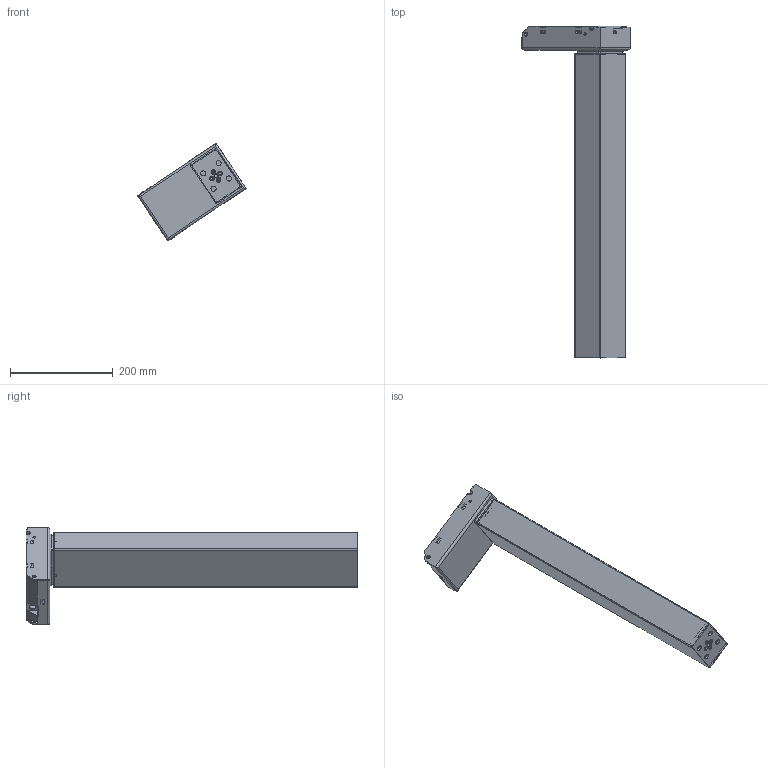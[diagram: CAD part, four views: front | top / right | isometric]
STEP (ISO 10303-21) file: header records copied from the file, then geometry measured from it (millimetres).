
FILE_DESCRIPTION (( 'STEP AP203' ), '1' );
FILE_NAME ('TL30S.STEP', '2018-07-12T05:42:47', ( '' ), ( '' ), 'SwSTEP 2.0', 'SolidWorks 2015', '' );
FILE_SCHEMA (( 'CONFIG_CONTROL_DESIGN' ));
Length unit declared in the file: millimetre
Products named in the file (6): TL30S; 三維零件圖-32309-XXXX-L-內層管烤漆; 三維零件圖-31605-395-塑膠上蓋; 三維零件圖-33105-024-外管防擺環; 三維零件圖-32309-0101-L-外層管烤漆; 三維零件圖-33903-195-16-自攻螺絲
Assembly tree (6 placements, depth 2):
  TL30S
    三維零件圖-32309-XXXX-L-內層管烤漆
    三維零件圖-31605-395-塑膠上蓋
    三維零件圖-33105-024-外管防擺環
    三維零件圖-32309-0101-L-外層管烤漆
    三維零件圖-33903-195-16-自攻螺絲  x2
Bounding box: 210.1 x 645 x 188.59 mm (x, y, z)
Volume: 708583.9 mm3; surface area: 794059 mm2
Topology: 6 solids, 6 shells, 1358 faces, 3594 edges, 2176 vertices
Faces by surface type: cylinder 592, plane 550, sphere 73, bspline 67, torus 52, cone 24
Entity records: 43442 total; most frequent: CARTESIAN_POINT 10845, ORIENTED_EDGE 6806, DIRECTION 6636, EDGE_CURVE 3403, AXIS2_PLACEMENT_3D 2264, VECTOR 2108, LINE 2108, VERTEX_POINT 2102
